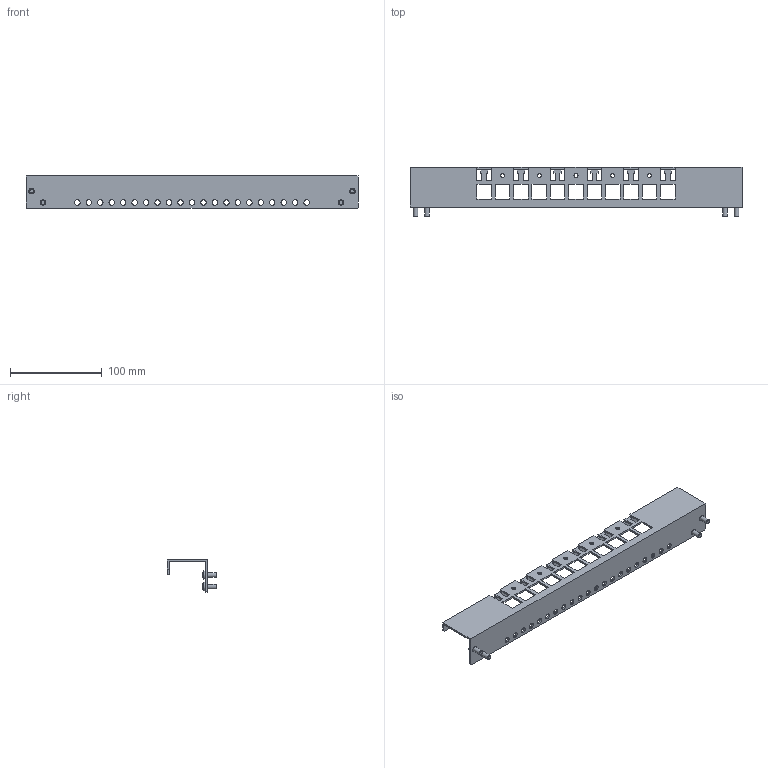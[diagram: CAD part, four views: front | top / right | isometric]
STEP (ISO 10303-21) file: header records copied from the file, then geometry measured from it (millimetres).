
FILE_DESCRIPTION(('Open CASCADE Model'),'2;1');
FILE_NAME('Open CASCADE Shape Model','2025-02-21T17:27:12',('Author'),( 'Open CASCADE'),'Open CASCADE STEP processor 7.8','Open CASCADE 7.8' ,'Unknown');
FILE_SCHEMA(('AUTOMOTIVE_DESIGN { 1 0 10303 214 1 1 1 1 }'));
Length unit declared in the file: millimetre
Products named in the file (3): Compound1; Solid1; Solid2
Assembly tree (5 placements, depth 2):
  Compound1
    Solid1
    Solid2  x4
Bounding box: 362 x 53.5 x 35 mm (x, y, z)
Volume: 56901.2 mm3; surface area: 62513.7 mm2
Topology: 5 solids, 5 shells, 267 faces, 785 edges, 520 vertices
Faces by surface type: plane 200, cylinder 43, torus 8, cone 8, sphere 4, bspline 4
Full cylindrical faces by diameter (mm): 4.4 x10, 5 x4, 6 x25, 9.5 x4
Entity records: 8228 total; most frequent: CARTESIAN_POINT 1795, ORIENTED_EDGE 1388, DIRECTION 1202, EDGE_CURVE 694, LINE 534, VECTOR 534, VERTEX_POINT 469, AXIS2_PLACEMENT_3D 334
